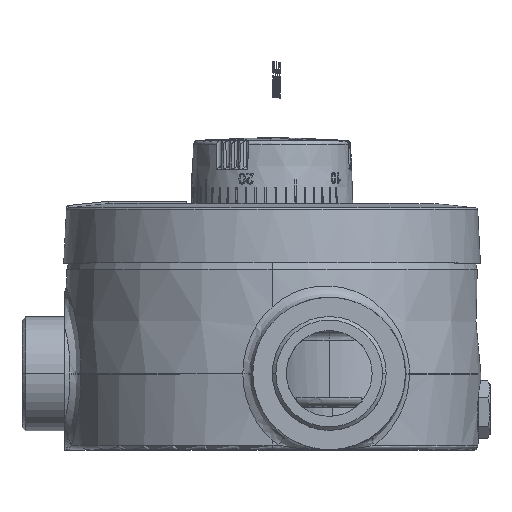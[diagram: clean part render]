
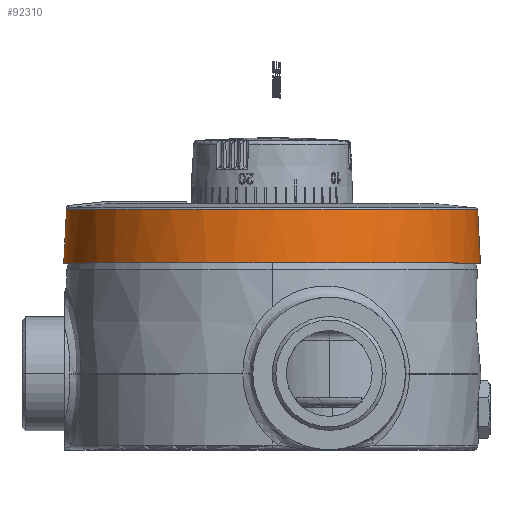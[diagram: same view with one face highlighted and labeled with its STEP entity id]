
A CAD part, top view. The second image highlights one B-rep face of the part: STEP entity #92310.
In plain terms, the highlighted conical face has half-angle 3 degrees and reference radius 86.327 mm.
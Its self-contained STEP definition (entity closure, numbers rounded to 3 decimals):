
#501 = ORIENTED_EDGE ( 'NONE', *, *, #15559, .F. ) ;
#1531 = EDGE_CURVE ( 'NONE', #123464, #10781, #119904, .T. ) ;
#6920 = DIRECTION ( 'NONE',  ( 1., 0., 0. ) ) ;
#7943 = CARTESIAN_POINT ( 'NONE',  ( 39.107, -78.477, 0. ) ) ;
#8394 = CARTESIAN_POINT ( 'NONE',  ( -65.417, -58.384, 0. ) ) ;
#9048 = B_SPLINE_CURVE_WITH_KNOTS ( 'NONE', 3,
 ( #84390, #95583, #40320, #117833, #51474, #129026, #62591 ),
 .UNSPECIFIED., .F., .F.,
 ( 4, 3, 4 ),
 ( 0.001, 0.001, 0.002 ),
 .UNSPECIFIED. ) ;
#9974 = ORIENTED_EDGE ( 'NONE', *, *, #59563, .T. ) ;
#10781 = VERTEX_POINT ( 'NONE', #38304 ) ;
#11904 = AXIS2_PLACEMENT_3D ( 'NONE', #139647, #73261, #6920 ) ;
#12483 = DIRECTION ( 'NONE',  ( -1., 0., 0. ) ) ;
#15559 = EDGE_CURVE ( 'NONE', #52994, #104630, #63101, .T. ) ;
#16013 = AXIS2_PLACEMENT_3D ( 'NONE', #58084, #135697, #69265 ) ;
#18602 = CARTESIAN_POINT ( 'NONE',  ( 87.494, -5.723, 0. ) ) ;
#19080 = CARTESIAN_POINT ( 'NONE',  ( 23.106, -84.582, 0. ) ) ;
#19329 = CARTESIAN_POINT ( 'NONE',  ( 0., 0., 22.384 ) ) ;
#19551 = CARTESIAN_POINT ( 'NONE',  ( -75.518, -44.553, 0. ) ) ;
#20894 = CARTESIAN_POINT ( 'NONE',  ( -86.315, -1., 22.384 ) ) ;
#23610 = DIRECTION ( 'NONE',  ( 0., 0., -1. ) ) ;
#25498 = AXIS2_PLACEMENT_3D ( 'NONE', #19329, #96787, #30445 ) ;
#27413 = AXIS2_PLACEMENT_3D ( 'NONE', #123409, #23610, #12483 ) ;
#27757 = FACE_OUTER_BOUND ( 'NONE', #95821, .T. ) ;
#29710 = CARTESIAN_POINT ( 'NONE',  ( 84.713, -22.622, 0. ) ) ;
#30199 = CARTESIAN_POINT ( 'NONE',  ( 6.223, -87.46, 0. ) ) ;
#30445 = DIRECTION ( 'NONE',  ( -1., 0., 0. ) ) ;
#30668 = CARTESIAN_POINT ( 'NONE',  ( -82.738, -29.024, 0. ) ) ;
#36290 = DIRECTION ( 'NONE',  ( -0.052, 0., -0.999 ) ) ;
#37297 = VERTEX_POINT ( 'NONE', #20894 ) ;
#38304 = CARTESIAN_POINT ( 'NONE',  ( -86.274, 0., 23.289 ) ) ;
#39542 = ORIENTED_EDGE ( 'NONE', *, *, #118314, .F. ) ;
#40320 = CARTESIAN_POINT ( 'NONE',  ( -86.278, -1.002, 23.098 ) ) ;
#40830 = CARTESIAN_POINT ( 'NONE',  ( 78.699, -38.658, 0. ) ) ;
#41291 = CARTESIAN_POINT ( 'NONE',  ( -10.897, -87.002, 0. ) ) ;
#41765 = CARTESIAN_POINT ( 'NONE',  ( -86.802, -12.387, 0. ) ) ;
#45368 = VERTEX_POINT ( 'NONE', #65887 ) ;
#51474 = CARTESIAN_POINT ( 'NONE',  ( -86.294, -1.001, 22.796 ) ) ;
#51974 = CARTESIAN_POINT ( 'NONE',  ( 69.683, -53.219, 0. ) ) ;
#52467 = CARTESIAN_POINT ( 'NONE',  ( -27.601, -83.224, 0. ) ) ;
#52916 = CARTESIAN_POINT ( 'NONE',  ( -87.491, -1., 0. ) ) ;
#52994 = VERTEX_POINT ( 'NONE', #66068 ) ;
#53715 = CONICAL_SURFACE ( 'NONE', #27413, 86.327, 0.052 ) ;
#57269 = CIRCLE ( 'NONE', #16013, 87.494 ) ;
#58084 = CARTESIAN_POINT ( 'NONE',  ( 0., 0., 0. ) ) ;
#59563 = EDGE_CURVE ( 'NONE', #10781, #45368, #90507, .T. ) ;
#60273 = DIRECTION ( 'NONE',  ( 0.052, 0., -0.999 ) ) ;
#61095 = VECTOR ( 'NONE', #36290, 1000. ) ;
#62198 = EDGE_CURVE ( 'NONE', #37297, #139177, #124621, .T. ) ;
#62591 = CARTESIAN_POINT ( 'NONE',  ( -86.315, -1., 22.384 ) ) ;
#63005 = EDGE_CURVE ( 'NONE', #123464, #37297, #9048, .T. ) ;
#63094 = CARTESIAN_POINT ( 'NONE',  ( 58.009, -65.749, 0. ) ) ;
#63101 = B_SPLINE_CURVE_WITH_KNOTS ( 'NONE', 3,
 ( #96080, #18602, #84886, #29710, #107226, #40830, #118344, #51974, #129513, #63094, #140652, #74243, #7943, #85366, #19080, #96539, #30199, #107715, #41291, #118835, #52467, #130000, #63584, #141126, #74748, #8394, #85841, #19551, #97009, #30668, #108182, #41765, #119290, #52916 ),
 .UNSPECIFIED., .F., .F.,
 ( 4, 2, 2, 2, 2, 2, 2, 2, 2, 2, 2, 2, 2, 2, 2, 2, 4 ),
 ( 0.5, 0.531, 0.563, 0.594, 0.625, 0.656, 0.688, 0.719, 0.75, 0.781, 0.813, 0.844, 0.875, 0.906, 0.938, 0.969, 1. ),
 .UNSPECIFIED. ) ;
#63584 = CARTESIAN_POINT ( 'NONE',  ( -43.252, -76.271, 0. ) ) ;
#65851 = CARTESIAN_POINT ( 'NONE',  ( 86.321, 0., 22.384 ) ) ;
#65887 = CARTESIAN_POINT ( 'NONE',  ( -87.494, 0., 0. ) ) ;
#66068 = CARTESIAN_POINT ( 'NONE',  ( 87.494, 0., 0. ) ) ;
#69239 = CARTESIAN_POINT ( 'NONE',  ( -86.327, 0., 22.278 ) ) ;
#69265 = DIRECTION ( 'NONE',  ( -1., 0., 0. ) ) ;
#71336 = EDGE_CURVE ( 'NONE', #139177, #52994, #88513, .T. ) ;
#73261 = DIRECTION ( 'NONE',  ( 0., 0., -1. ) ) ;
#74243 = CARTESIAN_POINT ( 'NONE',  ( 44.121, -75.772, 0. ) ) ;
#74748 = CARTESIAN_POINT ( 'NONE',  ( -57.254, -66.408, 0. ) ) ;
#84390 = CARTESIAN_POINT ( 'NONE',  ( -86.268, -1.003, 23.289 ) ) ;
#84886 = CARTESIAN_POINT ( 'NONE',  ( 86.938, -11.394, 0. ) ) ;
#85070 = VECTOR ( 'NONE', #60273, 1000. ) ;
#85366 = CARTESIAN_POINT ( 'NONE',  ( 28.55, -82.903, 0. ) ) ;
#85457 = CARTESIAN_POINT ( 'NONE',  ( -86.268, -1.003, 23.289 ) ) ;
#85841 = CARTESIAN_POINT ( 'NONE',  ( -69.07, -54.012, 0. ) ) ;
#88513 = LINE ( 'NONE', #116058, #85070 ) ;
#90507 = LINE ( 'NONE', #69239, #61095 ) ;
#91057 = CARTESIAN_POINT ( 'NONE',  ( -87.491, -1., 0. ) ) ;
#92310 = ADVANCED_FACE ( 'NONE', ( #27757 ), #53715, .T. ) ;
#95583 = CARTESIAN_POINT ( 'NONE',  ( -86.273, -1.003, 23.193 ) ) ;
#95821 = EDGE_LOOP ( 'NONE', ( #126779, #108847, #109812, #129939, #9974, #39542, #501 ) ) ;
#96080 = CARTESIAN_POINT ( 'NONE',  ( 87.494, 0., 0. ) ) ;
#96539 = CARTESIAN_POINT ( 'NONE',  ( 11.89, -86.871, 0. ) ) ;
#96787 = DIRECTION ( 'NONE',  ( 0., 0., 1. ) ) ;
#97009 = CARTESIAN_POINT ( 'NONE',  ( -78.252, -39.555, 0. ) ) ;
#104630 = VERTEX_POINT ( 'NONE', #91057 ) ;
#107226 = CARTESIAN_POINT ( 'NONE',  ( 83.065, -28.076, 0. ) ) ;
#107715 = CARTESIAN_POINT ( 'NONE',  ( -5.223, -87.526, 0. ) ) ;
#108182 = CARTESIAN_POINT ( 'NONE',  ( -84.449, -23.589, 0. ) ) ;
#108847 = ORIENTED_EDGE ( 'NONE', *, *, #62198, .F. ) ;
#109812 = ORIENTED_EDGE ( 'NONE', *, *, #63005, .F. ) ;
#116058 = CARTESIAN_POINT ( 'NONE',  ( 86.327, 0., 22.278 ) ) ;
#117833 = CARTESIAN_POINT ( 'NONE',  ( -86.283, -1.002, 23.002 ) ) ;
#118314 = EDGE_CURVE ( 'NONE', #104630, #45368, #57269, .T. ) ;
#118344 = CARTESIAN_POINT ( 'NONE',  ( 76.022, -43.687, 0. ) ) ;
#118835 = CARTESIAN_POINT ( 'NONE',  ( -22.138, -84.841, 0. ) ) ;
#119290 = CARTESIAN_POINT ( 'NONE',  ( -87.423, -6.724, 0. ) ) ;
#119904 = CIRCLE ( 'NONE', #11904, 86.274 ) ;
#123409 = CARTESIAN_POINT ( 'NONE',  ( 0., 0., 22.278 ) ) ;
#123464 = VERTEX_POINT ( 'NONE', #85457 ) ;
#124621 = CIRCLE ( 'NONE', #25498, 86.321 ) ;
#126779 = ORIENTED_EDGE ( 'NONE', *, *, #71336, .F. ) ;
#129026 = CARTESIAN_POINT ( 'NONE',  ( -86.305, -1., 22.59 ) ) ;
#129513 = CARTESIAN_POINT ( 'NONE',  ( 66.08, -57.632, 0. ) ) ;
#129939 = ORIENTED_EDGE ( 'NONE', *, *, #1531, .T. ) ;
#130000 = CARTESIAN_POINT ( 'NONE',  ( -38.208, -78.919, 0. ) ) ;
#135697 = DIRECTION ( 'NONE',  ( 0., 0., -1. ) ) ;
#139177 = VERTEX_POINT ( 'NONE', #65851 ) ;
#139647 = CARTESIAN_POINT ( 'NONE',  ( 0., 0., 23.289 ) ) ;
#140652 = CARTESIAN_POINT ( 'NONE',  ( 53.616, -69.378, 0. ) ) ;
#141126 = CARTESIAN_POINT ( 'NONE',  ( -52.82, -69.986, 0. ) ) ;
